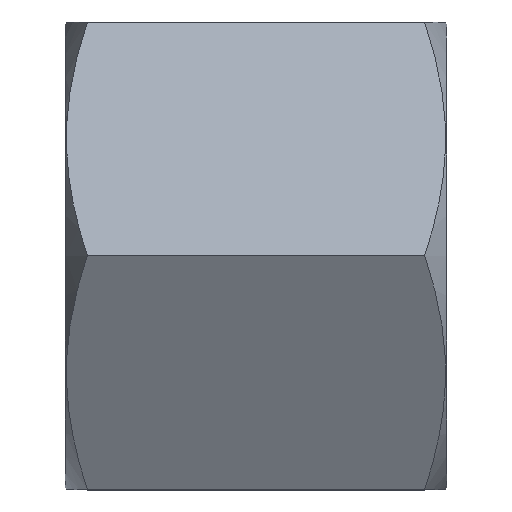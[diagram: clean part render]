
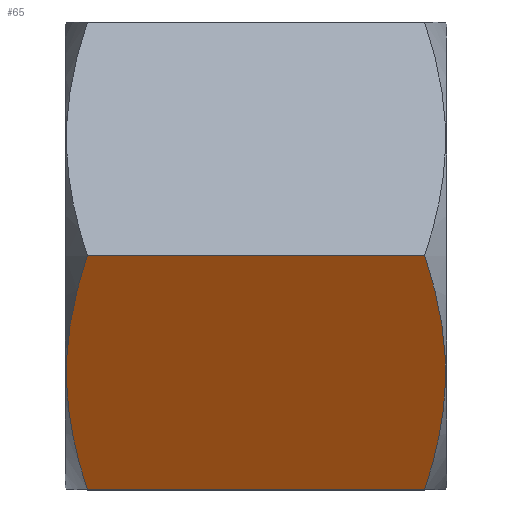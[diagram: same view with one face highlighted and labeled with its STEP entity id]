
A CAD part, top view. The second image highlights one B-rep face of the part: STEP entity #65.
In plain terms, the highlighted planar face has unit normal (0, -0.5, 0.866).
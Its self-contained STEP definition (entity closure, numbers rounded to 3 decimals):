
#65 = ADVANCED_FACE( '', ( #136 ), #137, .T. );
#136 = FACE_OUTER_BOUND( '', #205, .T. );
#137 = PLANE( '', #206 );
#205 = EDGE_LOOP( '', ( #309, #310, #311, #312 ) );
#206 = AXIS2_PLACEMENT_3D( '', #313, #314, #315 );
#309 = ORIENTED_EDGE( '', *, *, #383, .F. );
#310 = ORIENTED_EDGE( '', *, *, #367, .F. );
#311 = ORIENTED_EDGE( '', *, *, #386, .T. );
#312 = ORIENTED_EDGE( '', *, *, #379, .T. );
#313 = CARTESIAN_POINT( '', ( -15.5, 0., 10.97 ) );
#314 = DIRECTION( '', ( 0., -0.5, 0.866 ) );
#315 = DIRECTION( '', ( 0., -0.866, -0.5 ) );
#367 = EDGE_CURVE( '', #425, #421, #427, .T. );
#379 = EDGE_CURVE( '', #444, #441, #445, .T. );
#383 = EDGE_CURVE( '', #421, #441, #450, .T. );
#386 = EDGE_CURVE( '', #425, #444, #453, .T. );
#421 = VERTEX_POINT( '', #512 );
#425 = VERTEX_POINT( '', #528 );
#427 = LINE( '', #541, #542 );
#441 = VERTEX_POINT( '', #578 );
#444 = VERTEX_POINT( '', #592 );
#445 = LINE( '', #593, #594 );
#450 = B_SPLINE_CURVE_WITH_KNOTS( '', 3, ( #611, #612, #613, #614, #615, #616, #617, #618, #619, #620, #621, #622 ), .UNSPECIFIED., .F., .F., ( 4, 2, 2, 2, 2, 4 ), ( 0., 0.003, 0.006, 0.007, 0.008, 0.011 ), .UNSPECIFIED. );
#453 = B_SPLINE_CURVE_WITH_KNOTS( '', 3, ( #636, #637, #638, #639, #640, #641, #642, #643, #644, #645, #646, #647 ), .UNSPECIFIED., .F., .F., ( 4, 2, 2, 2, 2, 4 ), ( 0., 0.003, 0.006, 0.007, 0.008, 0.011 ), .UNSPECIFIED. );
#512 = CARTESIAN_POINT( '', ( -0.895, 0., 10.97 ) );
#528 = CARTESIAN_POINT( '', ( -14.605, 0., 10.97 ) );
#541 = CARTESIAN_POINT( '', ( -15.5, 0., 10.97 ) );
#542 = VECTOR( '', #688, 1000. );
#578 = CARTESIAN_POINT( '', ( -0.895, -9.5, 5.485 ) );
#592 = CARTESIAN_POINT( '', ( -14.605, -9.5, 5.485 ) );
#593 = CARTESIAN_POINT( '', ( -15.5, -9.5, 5.485 ) );
#594 = VECTOR( '', #698, 1000. );
#611 = CARTESIAN_POINT( '', ( -0.895, 0., 10.97 ) );
#612 = CARTESIAN_POINT( '', ( -0.636, -0.776, 10.522 ) );
#613 = CARTESIAN_POINT( '', ( -0.423, -1.557, 10.071 ) );
#614 = CARTESIAN_POINT( '', ( -0.128, -3.136, 9.159 ) );
#615 = CARTESIAN_POINT( '', ( -0.047, -3.933, 8.699 ) );
#616 = CARTESIAN_POINT( '', ( -0.046, -5.145, 7.999 ) );
#617 = CARTESIAN_POINT( '', ( -0.066, -5.55, 7.765 ) );
#618 = CARTESIAN_POINT( '', ( -0.143, -6.353, 7.302 ) );
#619 = CARTESIAN_POINT( '', ( -0.201, -6.752, 7.072 ) );
#620 = CARTESIAN_POINT( '', ( -0.422, -7.94, 6.385 ) );
#621 = CARTESIAN_POINT( '', ( -0.636, -8.723, 5.933 ) );
#622 = CARTESIAN_POINT( '', ( -0.895, -9.5, 5.485 ) );
#636 = CARTESIAN_POINT( '', ( -14.605, 0., 10.97 ) );
#637 = CARTESIAN_POINT( '', ( -14.864, -0.776, 10.522 ) );
#638 = CARTESIAN_POINT( '', ( -15.077, -1.557, 10.071 ) );
#639 = CARTESIAN_POINT( '', ( -15.372, -3.136, 9.159 ) );
#640 = CARTESIAN_POINT( '', ( -15.453, -3.933, 8.699 ) );
#641 = CARTESIAN_POINT( '', ( -15.454, -5.145, 7.999 ) );
#642 = CARTESIAN_POINT( '', ( -15.434, -5.55, 7.765 ) );
#643 = CARTESIAN_POINT( '', ( -15.357, -6.353, 7.302 ) );
#644 = CARTESIAN_POINT( '', ( -15.299, -6.752, 7.072 ) );
#645 = CARTESIAN_POINT( '', ( -15.078, -7.94, 6.385 ) );
#646 = CARTESIAN_POINT( '', ( -14.864, -8.723, 5.933 ) );
#647 = CARTESIAN_POINT( '', ( -14.605, -9.5, 5.485 ) );
#688 = DIRECTION( '', ( 1., 0., 0. ) );
#698 = DIRECTION( '', ( 1., 0., 0. ) );
